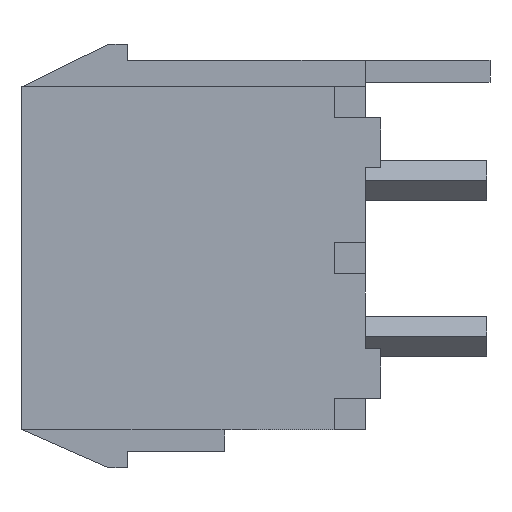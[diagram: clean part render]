
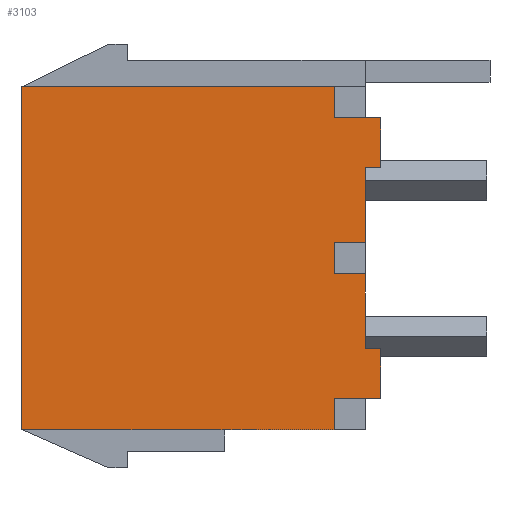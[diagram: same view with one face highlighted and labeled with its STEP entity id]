
A CAD part, left-side view. The second image highlights one B-rep face of the part: STEP entity #3103.
In plain terms, the highlighted planar face has unit normal (-1, 0, 0).
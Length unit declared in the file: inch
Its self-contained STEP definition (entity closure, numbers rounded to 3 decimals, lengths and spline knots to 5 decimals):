
#1=DIRECTION('',(0.,-1.,0.));
#2=VECTOR('',#1,0.5);
#3=CARTESIAN_POINT('',(-0.4,0.275,-0.275));
#4=LINE('',#3,#2);
#37=DIRECTION('',(0.,0.,-1.));
#38=VECTOR('',#37,0.05);
#39=CARTESIAN_POINT('',(-0.4,-0.225,-0.225));
#40=LINE('',#39,#38);
#41=DIRECTION('',(0.,0.,1.));
#42=VECTOR('',#41,0.55);
#43=CARTESIAN_POINT('',(-0.4,0.275,-0.275));
#44=LINE('',#43,#42);
#45=DIRECTION('',(0.,0.,-1.));
#46=VECTOR('',#45,0.05);
#47=CARTESIAN_POINT('',(-0.4,-0.225,0.275));
#48=LINE('',#47,#46);
#49=DIRECTION('',(0.,1.,0.));
#50=VECTOR('',#49,0.05);
#51=CARTESIAN_POINT('',(-0.4,-0.275,0.225));
#52=LINE('',#51,#50);
#53=DIRECTION('',(0.,-1.,0.));
#54=VECTOR('',#53,0.025);
#55=CARTESIAN_POINT('',(-0.4,-0.275,0.225));
#56=LINE('',#55,#54);
#57=DIRECTION('',(0.,1.,0.));
#58=VECTOR('',#57,0.05);
#59=CARTESIAN_POINT('',(-0.4,-0.275,0.025));
#60=LINE('',#59,#58);
#61=DIRECTION('',(0.,0.,-1.));
#62=VECTOR('',#61,0.05);
#63=CARTESIAN_POINT('',(-0.4,-0.225,0.025));
#64=LINE('',#63,#62);
#65=DIRECTION('',(0.,1.,0.));
#66=VECTOR('',#65,0.05);
#67=CARTESIAN_POINT('',(-0.4,-0.275,-0.025));
#68=LINE('',#67,#66);
#69=DIRECTION('',(0.,-1.,0.));
#70=VECTOR('',#69,0.025);
#71=CARTESIAN_POINT('',(-0.4,-0.275,-0.145));
#72=LINE('',#71,#70);
#73=DIRECTION('',(0.,1.,0.));
#74=VECTOR('',#73,0.05);
#75=CARTESIAN_POINT('',(-0.4,-0.275,-0.225));
#76=LINE('',#75,#74);
#233=DIRECTION('',(0.,0.,1.));
#234=VECTOR('',#233,0.12);
#235=CARTESIAN_POINT('',(-0.4,-0.275,-0.145));
#236=LINE('',#235,#234);
#249=DIRECTION('',(0.,0.,1.));
#250=VECTOR('',#249,0.12);
#251=CARTESIAN_POINT('',(-0.4,-0.275,0.025));
#252=LINE('',#251,#250);
#577=DIRECTION('',(0.,0.,-1.));
#578=VECTOR('',#577,0.08);
#579=CARTESIAN_POINT('',(-0.4,-0.3,0.225));
#580=LINE('',#579,#578);
#609=DIRECTION('',(0.,0.,-1.));
#610=VECTOR('',#609,0.08);
#611=CARTESIAN_POINT('',(-0.4,-0.3,-0.145));
#612=LINE('',#611,#610);
#649=DIRECTION('',(0.,-1.,0.));
#650=VECTOR('',#649,0.025);
#651=CARTESIAN_POINT('',(-0.4,-0.275,0.145));
#652=LINE('',#651,#650);
#673=DIRECTION('',(0.,-1.,0.));
#674=VECTOR('',#673,0.025);
#675=CARTESIAN_POINT('',(-0.4,-0.275,-0.225));
#676=LINE('',#675,#674);
#757=DIRECTION('',(0.,-1.,0.));
#758=VECTOR('',#757,0.5);
#759=CARTESIAN_POINT('',(-0.4,0.275,0.275));
#760=LINE('',#759,#758);
#2309=CARTESIAN_POINT('',(-0.4,0.275,-0.275));
#2310=CARTESIAN_POINT('',(-0.4,0.275,0.275));
#2311=VERTEX_POINT('',#2309);
#2312=VERTEX_POINT('',#2310);
#2741=CARTESIAN_POINT('',(-0.4,-0.3,0.225));
#2742=CARTESIAN_POINT('',(-0.4,-0.3,0.145));
#2743=VERTEX_POINT('',#2741);
#2744=VERTEX_POINT('',#2742);
#2759=CARTESIAN_POINT('',(-0.4,-0.3,-0.225));
#2761=VERTEX_POINT('',#2759);
#2763=CARTESIAN_POINT('',(-0.4,-0.3,-0.145));
#2764=VERTEX_POINT('',#2763);
#2765=CARTESIAN_POINT('',(-0.4,-0.275,0.145));
#2767=VERTEX_POINT('',#2765);
#2849=CARTESIAN_POINT('',(-0.4,-0.225,0.275));
#2850=CARTESIAN_POINT('',(-0.4,-0.225,0.225));
#2851=VERTEX_POINT('',#2849);
#2852=VERTEX_POINT('',#2850);
#2853=CARTESIAN_POINT('',(-0.4,-0.275,0.225));
#2854=VERTEX_POINT('',#2853);
#2877=CARTESIAN_POINT('',(-0.4,-0.225,0.025));
#2878=CARTESIAN_POINT('',(-0.4,-0.225,-0.025));
#2879=VERTEX_POINT('',#2877);
#2880=VERTEX_POINT('',#2878);
#2881=CARTESIAN_POINT('',(-0.4,-0.275,-0.025));
#2882=VERTEX_POINT('',#2881);
#2883=CARTESIAN_POINT('',(-0.4,-0.275,0.025));
#2884=VERTEX_POINT('',#2883);
#2909=CARTESIAN_POINT('',(-0.4,-0.225,-0.225));
#2910=CARTESIAN_POINT('',(-0.4,-0.225,-0.275));
#2911=VERTEX_POINT('',#2909);
#2912=VERTEX_POINT('',#2910);
#2913=CARTESIAN_POINT('',(-0.4,-0.275,-0.225));
#2914=VERTEX_POINT('',#2913);
#2941=CARTESIAN_POINT('',(-0.4,-0.275,-0.145));
#2942=VERTEX_POINT('',#2941);
#3061=CARTESIAN_POINT('',(-0.4,0.275,-0.275));
#3062=DIRECTION('',(-1.,0.,0.));
#3063=DIRECTION('',(0.,-1.,0.));
#3064=AXIS2_PLACEMENT_3D('',#3061,#3062,#3063);
#3065=PLANE('',#3064);
#3067=ORIENTED_EDGE('',*,*,#3066,.T.);
#3068=ORIENTED_EDGE('',*,*,#3034,.F.);
#3070=ORIENTED_EDGE('',*,*,#3069,.T.);
#3072=ORIENTED_EDGE('',*,*,#3071,.T.);
#3074=ORIENTED_EDGE('',*,*,#3073,.T.);
#3076=ORIENTED_EDGE('',*,*,#3075,.F.);
#3078=ORIENTED_EDGE('',*,*,#3077,.T.);
#3080=ORIENTED_EDGE('',*,*,#3079,.T.);
#3082=ORIENTED_EDGE('',*,*,#3081,.F.);
#3084=ORIENTED_EDGE('',*,*,#3083,.F.);
#3086=ORIENTED_EDGE('',*,*,#3085,.T.);
#3088=ORIENTED_EDGE('',*,*,#3087,.T.);
#3090=ORIENTED_EDGE('',*,*,#3089,.F.);
#3092=ORIENTED_EDGE('',*,*,#3091,.F.);
#3094=ORIENTED_EDGE('',*,*,#3093,.T.);
#3096=ORIENTED_EDGE('',*,*,#3095,.T.);
#3098=ORIENTED_EDGE('',*,*,#3097,.F.);
#3100=ORIENTED_EDGE('',*,*,#3099,.T.);
#3101=EDGE_LOOP('',(#3067,#3068,#3070,#3072,#3074,#3076,#3078,#3080,#3082,#3084,
#3086,#3088,#3090,#3092,#3094,#3096,#3098,#3100));
#3102=FACE_OUTER_BOUND('',#3101,.F.);
#3103=ADVANCED_FACE('',(#3102),#3065,.T.);
#3034=EDGE_CURVE('',#2311,#2912,#4,.T.);
#3066=EDGE_CURVE('',#2911,#2912,#40,.T.);
#3069=EDGE_CURVE('',#2311,#2312,#44,.T.);
#3071=EDGE_CURVE('',#2312,#2851,#760,.T.);
#3073=EDGE_CURVE('',#2851,#2852,#48,.T.);
#3075=EDGE_CURVE('',#2854,#2852,#52,.T.);
#3077=EDGE_CURVE('',#2854,#2743,#56,.T.);
#3079=EDGE_CURVE('',#2743,#2744,#580,.T.);
#3081=EDGE_CURVE('',#2767,#2744,#652,.T.);
#3083=EDGE_CURVE('',#2884,#2767,#252,.T.);
#3085=EDGE_CURVE('',#2884,#2879,#60,.T.);
#3087=EDGE_CURVE('',#2879,#2880,#64,.T.);
#3089=EDGE_CURVE('',#2882,#2880,#68,.T.);
#3091=EDGE_CURVE('',#2942,#2882,#236,.T.);
#3093=EDGE_CURVE('',#2942,#2764,#72,.T.);
#3095=EDGE_CURVE('',#2764,#2761,#612,.T.);
#3097=EDGE_CURVE('',#2914,#2761,#676,.T.);
#3099=EDGE_CURVE('',#2914,#2911,#76,.T.);
